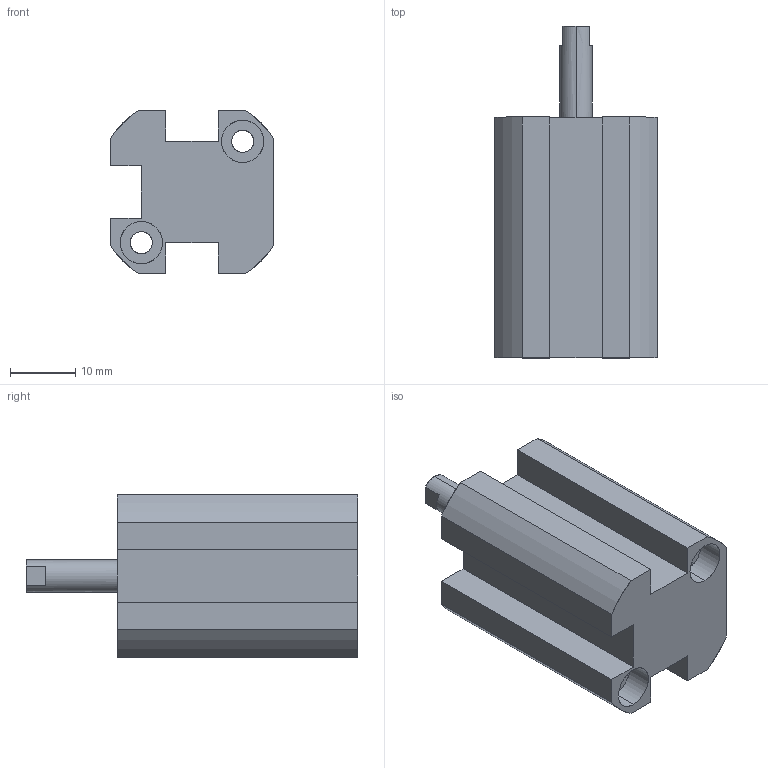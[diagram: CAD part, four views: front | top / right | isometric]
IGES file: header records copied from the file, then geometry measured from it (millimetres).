
Start section: SolidWorks IGES file using analytic representation for surfaces
Global section: file name: C:\Users\Toshiba\Desktop\XG#0-10-10.IGS; native system: SolidWorks 2014; preprocessor: SolidWorks 2014; author: Toshiba; date: 160524.092853; units: millimetre
Bounding box: 25 x 51 x 25 mm (x, y, z)
Surface area: 6828.3 mm2 (no closed solid volume)
Topology: 0 solids, 0 shells, 72 faces, 1163 edges, 1161 vertices
Faces by surface type: revolution 39, bspline 33
